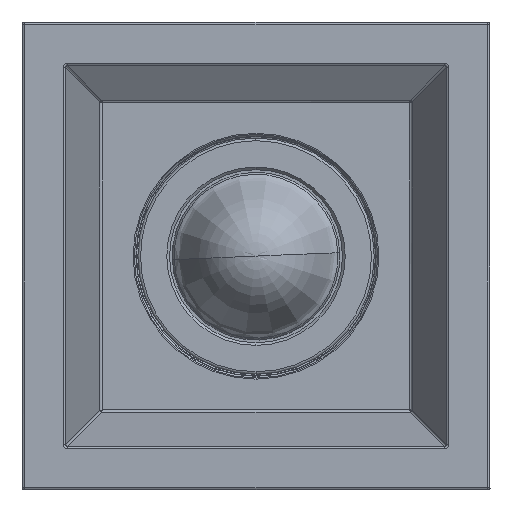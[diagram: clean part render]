
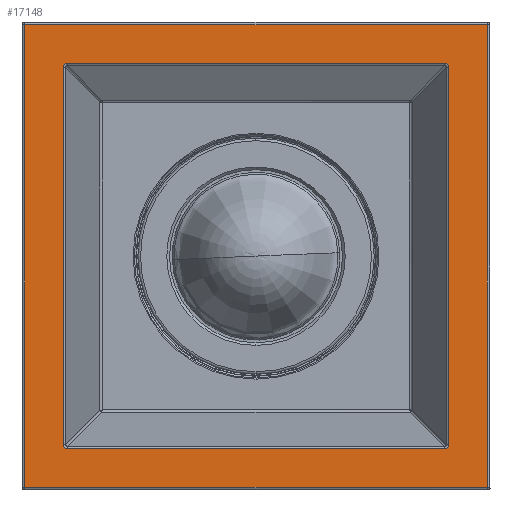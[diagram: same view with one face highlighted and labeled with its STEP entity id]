
A CAD part, top view. The second image highlights one B-rep face of the part: STEP entity #17148.
In plain terms, the highlighted planar face has unit normal (0, 0, 1).
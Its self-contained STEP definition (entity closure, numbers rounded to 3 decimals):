
#8516=DIRECTION('',(-1.,0.,0.));
#8517=VECTOR('',#8516,86.034);
#8518=CARTESIAN_POINT('',(43.017,43.017,16.821));
#8519=LINE('',#8518,#8517);
#8520=DIRECTION('',(0.,1.,0.));
#8521=VECTOR('',#8520,86.034);
#8522=CARTESIAN_POINT('',(43.017,-43.017,16.821));
#8523=LINE('',#8522,#8521);
#8524=DIRECTION('',(1.,0.,0.));
#8525=VECTOR('',#8524,86.034);
#8526=CARTESIAN_POINT('',(-43.017,-43.017,
16.821));
#8527=LINE('',#8526,#8525);
#8528=DIRECTION('',(0.,-1.,0.));
#8529=VECTOR('',#8528,86.034);
#8530=CARTESIAN_POINT('',(-43.017,43.017,16.821));
#8531=LINE('',#8530,#8529);
#8532=CARTESIAN_POINT('',(35.111,35.883,16.821));
#8533=CARTESIAN_POINT('',(35.137,35.883,16.821));
#8534=CARTESIAN_POINT('',(35.189,35.88,16.821));
#8535=CARTESIAN_POINT('',(35.264,35.87,16.821));
#8536=CARTESIAN_POINT('',(35.338,35.852,16.821));
#8537=CARTESIAN_POINT('',(35.409,35.827,16.821));
#8538=CARTESIAN_POINT('',(35.477,35.795,16.821));
#8539=CARTESIAN_POINT('',(35.541,35.758,16.821));
#8540=CARTESIAN_POINT('',(35.601,35.715,16.821));
#8541=CARTESIAN_POINT('',(35.655,35.666,16.821));
#8542=CARTESIAN_POINT('',(35.705,35.612,16.821));
#8543=CARTESIAN_POINT('',(35.75,35.553,16.821));
#8544=CARTESIAN_POINT('',(35.789,35.489,16.821));
#8545=CARTESIAN_POINT('',(35.822,35.421,16.821));
#8546=CARTESIAN_POINT('',(35.848,35.349,16.821));
#8547=CARTESIAN_POINT('',(35.868,35.274,16.821));
#8548=CARTESIAN_POINT('',(35.88,35.195,16.821));
#8549=CARTESIAN_POINT('',(35.883,35.139,16.821));
#8550=CARTESIAN_POINT('',(35.883,35.111,16.821));
#8552=DIRECTION('',(1.,0.,0.));
#8553=VECTOR('',#8552,70.221);
#8554=CARTESIAN_POINT('',(-35.111,35.883,16.821));
#8555=LINE('',#8554,#8553);
#8556=CARTESIAN_POINT('',(-35.883,35.111,16.821));
#8557=CARTESIAN_POINT('',(-35.883,35.137,16.821));
#8558=CARTESIAN_POINT('',(-35.88,35.189,16.821));
#8559=CARTESIAN_POINT('',(-35.87,35.264,16.821));
#8560=CARTESIAN_POINT('',(-35.852,35.338,16.821));
#8561=CARTESIAN_POINT('',(-35.827,35.409,16.821));
#8562=CARTESIAN_POINT('',(-35.795,35.477,16.821));
#8563=CARTESIAN_POINT('',(-35.758,35.541,16.821));
#8564=CARTESIAN_POINT('',(-35.715,35.601,16.821));
#8565=CARTESIAN_POINT('',(-35.666,35.655,16.821));
#8566=CARTESIAN_POINT('',(-35.612,35.705,16.821));
#8567=CARTESIAN_POINT('',(-35.553,35.75,16.821));
#8568=CARTESIAN_POINT('',(-35.489,35.789,16.821));
#8569=CARTESIAN_POINT('',(-35.421,35.822,16.821));
#8570=CARTESIAN_POINT('',(-35.349,35.848,16.821));
#8571=CARTESIAN_POINT('',(-35.274,35.868,16.821));
#8572=CARTESIAN_POINT('',(-35.195,35.88,16.821));
#8573=CARTESIAN_POINT('',(-35.139,35.883,16.821));
#8574=CARTESIAN_POINT('',(-35.111,35.883,16.821));
#8576=DIRECTION('',(0.,1.,0.));
#8577=VECTOR('',#8576,70.221);
#8578=CARTESIAN_POINT('',(-35.883,-35.111,
16.821));
#8579=LINE('',#8578,#8577);
#8580=CARTESIAN_POINT('',(-35.111,-35.883,
16.821));
#8581=CARTESIAN_POINT('',(-35.137,-35.883,
16.821));
#8582=CARTESIAN_POINT('',(-35.189,-35.88,
16.821));
#8583=CARTESIAN_POINT('',(-35.264,-35.87,
16.821));
#8584=CARTESIAN_POINT('',(-35.338,-35.852,
16.821));
#8585=CARTESIAN_POINT('',(-35.409,-35.827,
16.821));
#8586=CARTESIAN_POINT('',(-35.477,-35.795,
16.821));
#8587=CARTESIAN_POINT('',(-35.541,-35.758,
16.821));
#8588=CARTESIAN_POINT('',(-35.601,-35.715,
16.821));
#8589=CARTESIAN_POINT('',(-35.655,-35.666,
16.821));
#8590=CARTESIAN_POINT('',(-35.705,-35.612,
16.821));
#8591=CARTESIAN_POINT('',(-35.75,-35.553,
16.821));
#8592=CARTESIAN_POINT('',(-35.789,-35.489,
16.821));
#8593=CARTESIAN_POINT('',(-35.822,-35.421,
16.821));
#8594=CARTESIAN_POINT('',(-35.848,-35.349,
16.821));
#8595=CARTESIAN_POINT('',(-35.868,-35.274,
16.821));
#8596=CARTESIAN_POINT('',(-35.88,-35.195,
16.821));
#8597=CARTESIAN_POINT('',(-35.883,-35.139,
16.821));
#8598=CARTESIAN_POINT('',(-35.883,-35.111,
16.821));
#8600=DIRECTION('',(-1.,0.,0.));
#8601=VECTOR('',#8600,70.221);
#8602=CARTESIAN_POINT('',(35.111,-35.883,16.821));
#8603=LINE('',#8602,#8601);
#8604=CARTESIAN_POINT('',(35.883,-35.111,16.821));
#8605=CARTESIAN_POINT('',(35.883,-35.137,16.821));
#8606=CARTESIAN_POINT('',(35.88,-35.189,16.821));
#8607=CARTESIAN_POINT('',(35.87,-35.264,16.821));
#8608=CARTESIAN_POINT('',(35.852,-35.338,16.821));
#8609=CARTESIAN_POINT('',(35.827,-35.409,16.821));
#8610=CARTESIAN_POINT('',(35.795,-35.477,16.821));
#8611=CARTESIAN_POINT('',(35.758,-35.541,16.821));
#8612=CARTESIAN_POINT('',(35.715,-35.601,16.821));
#8613=CARTESIAN_POINT('',(35.666,-35.655,16.821));
#8614=CARTESIAN_POINT('',(35.612,-35.705,16.821));
#8615=CARTESIAN_POINT('',(35.553,-35.75,16.821));
#8616=CARTESIAN_POINT('',(35.489,-35.789,16.821));
#8617=CARTESIAN_POINT('',(35.421,-35.822,16.821));
#8618=CARTESIAN_POINT('',(35.349,-35.848,16.821));
#8619=CARTESIAN_POINT('',(35.274,-35.868,16.821));
#8620=CARTESIAN_POINT('',(35.195,-35.88,16.821));
#8621=CARTESIAN_POINT('',(35.139,-35.883,16.821));
#8622=CARTESIAN_POINT('',(35.111,-35.883,16.821));
#8624=DIRECTION('',(0.,-1.,0.));
#8625=VECTOR('',#8624,70.221);
#8626=CARTESIAN_POINT('',(35.883,35.111,16.821));
#8627=LINE('',#8626,#8625);
#12231=CARTESIAN_POINT('',(43.017,43.017,16.821));
#12232=CARTESIAN_POINT('',(-43.017,43.017,
16.821));
#12233=VERTEX_POINT('',#12231);
#12234=VERTEX_POINT('',#12232);
#12239=CARTESIAN_POINT('',(-43.017,-43.017,
16.821));
#12240=VERTEX_POINT('',#12239);
#12245=CARTESIAN_POINT('',(43.017,-43.017,
16.821));
#12246=VERTEX_POINT('',#12245);
#12255=VERTEX_POINT('',#8532);
#12256=VERTEX_POINT('',#8550);
#12259=CARTESIAN_POINT('',(35.883,-35.111,
16.821));
#12260=VERTEX_POINT('',#12259);
#12263=VERTEX_POINT('',#8622);
#12265=CARTESIAN_POINT('',(-35.111,-35.883,
16.821));
#12266=VERTEX_POINT('',#12265);
#12269=VERTEX_POINT('',#8598);
#12271=CARTESIAN_POINT('',(-35.883,35.111,
16.821));
#12272=VERTEX_POINT('',#12271);
#12275=VERTEX_POINT('',#8574);
#17116=CARTESIAN_POINT('',(0.,0.,16.821));
#17117=DIRECTION('',(0.,0.,1.));
#17118=DIRECTION('',(0.,1.,0.));
#17119=AXIS2_PLACEMENT_3D('',#17116,#17117,#17118);
#17120=PLANE('',#17119);
#17122=ORIENTED_EDGE('',*,*,#17121,.F.);
#17124=ORIENTED_EDGE('',*,*,#17123,.F.);
#17125=ORIENTED_EDGE('',*,*,#17106,.F.);
#17127=ORIENTED_EDGE('',*,*,#17126,.F.);
#17128=EDGE_LOOP('',(#17122,#17124,#17125,#17127));
#17129=FACE_OUTER_BOUND('',#17128,.F.);
#17131=ORIENTED_EDGE('',*,*,#17130,.F.);
#17133=ORIENTED_EDGE('',*,*,#17132,.F.);
#17135=ORIENTED_EDGE('',*,*,#17134,.F.);
#17137=ORIENTED_EDGE('',*,*,#17136,.F.);
#17139=ORIENTED_EDGE('',*,*,#17138,.F.);
#17141=ORIENTED_EDGE('',*,*,#17140,.F.);
#17143=ORIENTED_EDGE('',*,*,#17142,.F.);
#17145=ORIENTED_EDGE('',*,*,#17144,.F.);
#17146=EDGE_LOOP('',(#17131,#17133,#17135,#17137,#17139,#17141,#17143,#17145));
#17147=FACE_BOUND('',#17146,.F.);
#17148=ADVANCED_FACE('',(#17129,#17147),#17120,.T.);
#8551=B_SPLINE_CURVE_WITH_KNOTS('',3,(#8532,#8533,#8534,#8535,#8536,#8537,#8538,
#8539,#8540,#8541,#8542,#8543,#8544,#8545,#8546,#8547,#8548,#8549,#8550),
.UNSPECIFIED.,.F.,.F.,(4,1,1,1,1,1,1,1,1,1,1,1,1,1,1,1,4),(0.,0.063,0.125,
0.188,0.25,0.313,0.375,0.438,0.5,0.563,0.625,0.688,
0.75,0.813,0.875,0.938,1.),.UNSPECIFIED.);
#8575=B_SPLINE_CURVE_WITH_KNOTS('',3,(#8556,#8557,#8558,#8559,#8560,#8561,#8562,
#8563,#8564,#8565,#8566,#8567,#8568,#8569,#8570,#8571,#8572,#8573,#8574),
.UNSPECIFIED.,.F.,.F.,(4,1,1,1,1,1,1,1,1,1,1,1,1,1,1,1,4),(0.,0.063,0.125,
0.188,0.25,0.313,0.375,0.438,0.5,0.563,0.625,0.688,
0.75,0.813,0.875,0.938,1.),.UNSPECIFIED.);
#8599=B_SPLINE_CURVE_WITH_KNOTS('',3,(#8580,#8581,#8582,#8583,#8584,#8585,#8586,
#8587,#8588,#8589,#8590,#8591,#8592,#8593,#8594,#8595,#8596,#8597,#8598),
.UNSPECIFIED.,.F.,.F.,(4,1,1,1,1,1,1,1,1,1,1,1,1,1,1,1,4),(0.,0.063,0.125,
0.188,0.25,0.313,0.375,0.438,0.5,0.563,0.625,0.688,
0.75,0.813,0.875,0.938,1.),.UNSPECIFIED.);
#8623=B_SPLINE_CURVE_WITH_KNOTS('',3,(#8604,#8605,#8606,#8607,#8608,#8609,#8610,
#8611,#8612,#8613,#8614,#8615,#8616,#8617,#8618,#8619,#8620,#8621,#8622),
.UNSPECIFIED.,.F.,.F.,(4,1,1,1,1,1,1,1,1,1,1,1,1,1,1,1,4),(0.,0.063,0.125,
0.188,0.25,0.313,0.375,0.438,0.5,0.563,0.625,0.688,
0.75,0.813,0.875,0.938,1.),.UNSPECIFIED.);
#17106=EDGE_CURVE('',#12240,#12246,#8527,.T.);
#17121=EDGE_CURVE('',#12233,#12234,#8519,.T.);
#17123=EDGE_CURVE('',#12246,#12233,#8523,.T.);
#17126=EDGE_CURVE('',#12234,#12240,#8531,.T.);
#17130=EDGE_CURVE('',#12255,#12256,#8551,.T.);
#17132=EDGE_CURVE('',#12275,#12255,#8555,.T.);
#17134=EDGE_CURVE('',#12272,#12275,#8575,.T.);
#17136=EDGE_CURVE('',#12269,#12272,#8579,.T.);
#17138=EDGE_CURVE('',#12266,#12269,#8599,.T.);
#17140=EDGE_CURVE('',#12263,#12266,#8603,.T.);
#17142=EDGE_CURVE('',#12260,#12263,#8623,.T.);
#17144=EDGE_CURVE('',#12256,#12260,#8627,.T.);
